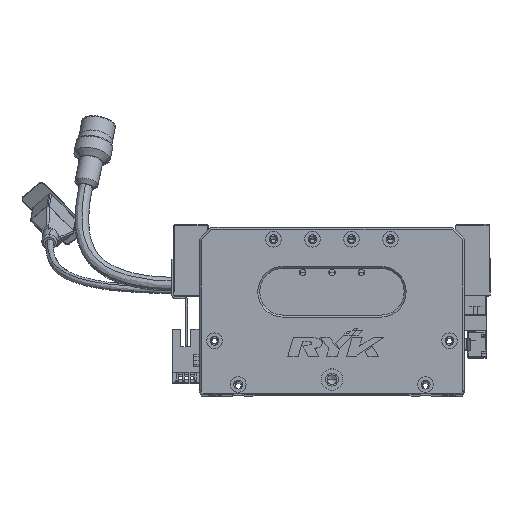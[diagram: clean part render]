
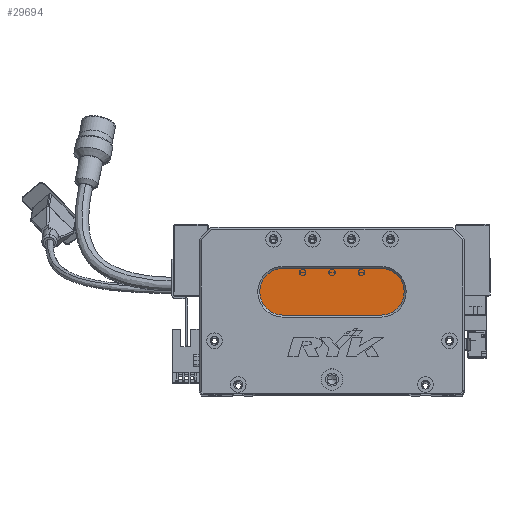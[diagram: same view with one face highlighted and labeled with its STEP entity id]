
A CAD part, top view. The second image highlights one B-rep face of the part: STEP entity #29694.
In plain terms, the highlighted planar face has unit normal (0, 0, 1) as drawn and (0, 0, -1) by its records, which use the part's own axes.
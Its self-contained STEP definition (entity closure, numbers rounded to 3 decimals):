
#572 = ORIENTED_EDGE ( 'NONE', *, *, #17626, .T. ) ;
#2177 = CIRCLE ( 'NONE', #40732, 12. ) ;
#5155 = CARTESIAN_POINT ( 'NONE',  ( 43., 52., 13. ) ) ;
#12250 = DIRECTION ( 'NONE',  ( 0., 0., -1. ) ) ;
#13374 = VERTEX_POINT ( 'NONE', #69301 ) ;
#14068 = VECTOR ( 'NONE', #51032, 1000. ) ;
#16192 = DIRECTION ( 'NONE',  ( -1., 0., 0. ) ) ;
#17626 = EDGE_CURVE ( 'NONE', #65321, #13374, #51144, .T. ) ;
#18402 = LINE ( 'NONE', #42743, #21827 ) ;
#18491 = DIRECTION ( 'NONE',  ( -1., 0., 0. ) ) ;
#20524 = FACE_OUTER_BOUND ( 'NONE', #52790, .T. ) ;
#21010 = DIRECTION ( 'NONE',  ( 0., 0., -1. ) ) ;
#21162 = DIRECTION ( 'NONE',  ( -1., 0., 0. ) ) ;
#21827 = VECTOR ( 'NONE', #21162, 1000. ) ;
#23970 = DIRECTION ( 'NONE',  ( -1., 0., 0. ) ) ;
#24124 = EDGE_CURVE ( 'NONE', #45784, #66102, #40830, .T. ) ;
#24823 = EDGE_CURVE ( 'NONE', #13374, #42678, #2177, .T. ) ;
#26262 = EDGE_CURVE ( 'NONE', #42678, #45784, #28642, .T. ) ;
#28642 = LINE ( 'NONE', #51740, #14068 ) ;
#29694 = ADVANCED_FACE ( 'NONE', ( #20524 ), #55218, .T. ) ;
#29807 = AXIS2_PLACEMENT_3D ( 'NONE', #58275, #67298, #23970 ) ;
#30046 = CARTESIAN_POINT ( 'NONE',  ( 93., 52., 13. ) ) ;
#31466 = AXIS2_PLACEMENT_3D ( 'NONE', #44887, #12250, #50170 ) ;
#32725 = CARTESIAN_POINT ( 'NONE',  ( 93., 64., 13. ) ) ;
#38362 = EDGE_CURVE ( 'NONE', #66102, #65321, #18402, .T. ) ;
#39477 = ORIENTED_EDGE ( 'NONE', *, *, #24823, .T. ) ;
#40732 = AXIS2_PLACEMENT_3D ( 'NONE', #5155, #21010, #16192 ) ;
#40830 = CIRCLE ( 'NONE', #31466, 12. ) ;
#40940 = DIRECTION ( 'NONE',  ( 0., 0., -1. ) ) ;
#42678 = VERTEX_POINT ( 'NONE', #70229 ) ;
#42743 = CARTESIAN_POINT ( 'NONE',  ( 93., 40., 13. ) ) ;
#44887 = CARTESIAN_POINT ( 'NONE',  ( 93., 52., 13. ) ) ;
#45784 = VERTEX_POINT ( 'NONE', #32725 ) ;
#47121 = ORIENTED_EDGE ( 'NONE', *, *, #26262, .T. ) ;
#48290 = CARTESIAN_POINT ( 'NONE',  ( 43., 40., 13. ) ) ;
#50170 = DIRECTION ( 'NONE',  ( -1., 0., 0. ) ) ;
#51032 = DIRECTION ( 'NONE',  ( 1., 0., 0. ) ) ;
#51144 = CIRCLE ( 'NONE', #29807, 12. ) ;
#51740 = CARTESIAN_POINT ( 'NONE',  ( 93., 64., 13. ) ) ;
#52790 = EDGE_LOOP ( 'NONE', ( #61243, #59961, #572, #39477, #47121 ) ) ;
#55218 = PLANE ( 'NONE',  #55589 ) ;
#55589 = AXIS2_PLACEMENT_3D ( 'NONE', #30046, #40940, #18491 ) ;
#58275 = CARTESIAN_POINT ( 'NONE',  ( 43., 52., 13. ) ) ;
#59961 = ORIENTED_EDGE ( 'NONE', *, *, #38362, .T. ) ;
#60133 = CARTESIAN_POINT ( 'NONE',  ( 93., 40., 13. ) ) ;
#61243 = ORIENTED_EDGE ( 'NONE', *, *, #24124, .T. ) ;
#65321 = VERTEX_POINT ( 'NONE', #48290 ) ;
#66102 = VERTEX_POINT ( 'NONE', #60133 ) ;
#67298 = DIRECTION ( 'NONE',  ( 0., 0., -1. ) ) ;
#69301 = CARTESIAN_POINT ( 'NONE',  ( 31., 52., 13. ) ) ;
#70229 = CARTESIAN_POINT ( 'NONE',  ( 43., 64., 13. ) ) ;
